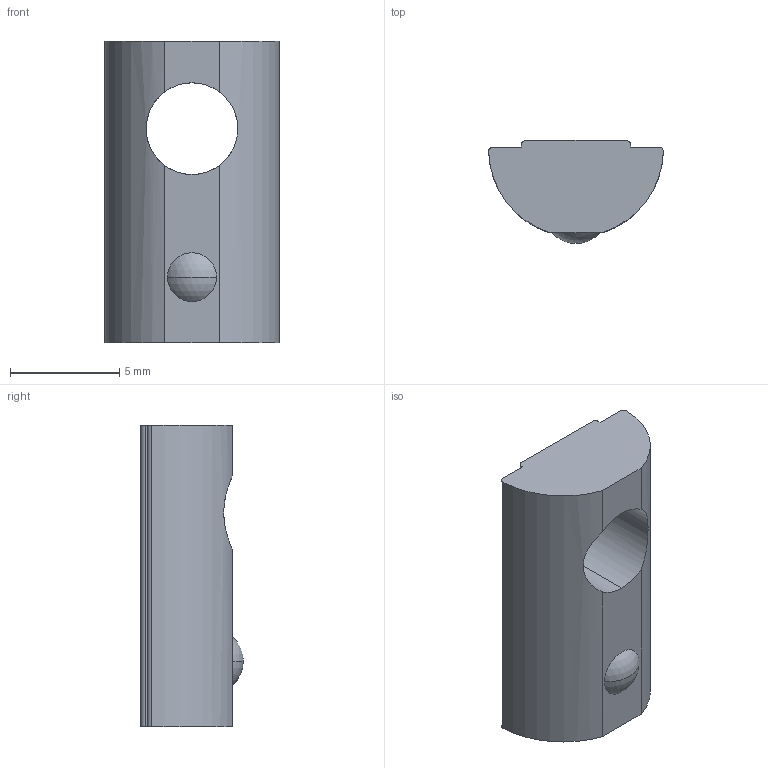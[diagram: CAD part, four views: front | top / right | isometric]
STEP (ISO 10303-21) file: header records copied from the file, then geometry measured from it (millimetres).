
FILE_DESCRIPTION (( 'STEP AP203' ), '1' );
FILE_NAME ('LIMA-LHNR5-62020.STEP', '2018-03-15T12:17:50', ( '' ), ( '' ), 'SwSTEP 2.0', 'SolidWorks 2013', '' );
FILE_SCHEMA (( 'CONFIG_CONTROL_DESIGN' ));
Length unit declared in the file: millimetre
Products named in the file (1): LIMA-LHNR5-62020
Bounding box: 8 x 4.7 x 13.8 mm (x, y, z)
Volume: 316.9 mm3; surface area: 369.8 mm2
Topology: 1 solids, 1 shells, 20 faces, 55 edges, 37 vertices
Faces by surface type: cylinder 9, plane 9, sphere 2
Entity records: 758 total; most frequent: CARTESIAN_POINT 143, DIRECTION 119, ORIENTED_EDGE 110, EDGE_CURVE 55, AXIS2_PLACEMENT_3D 45, VERTEX_POINT 37, VECTOR 29, LINE 29
